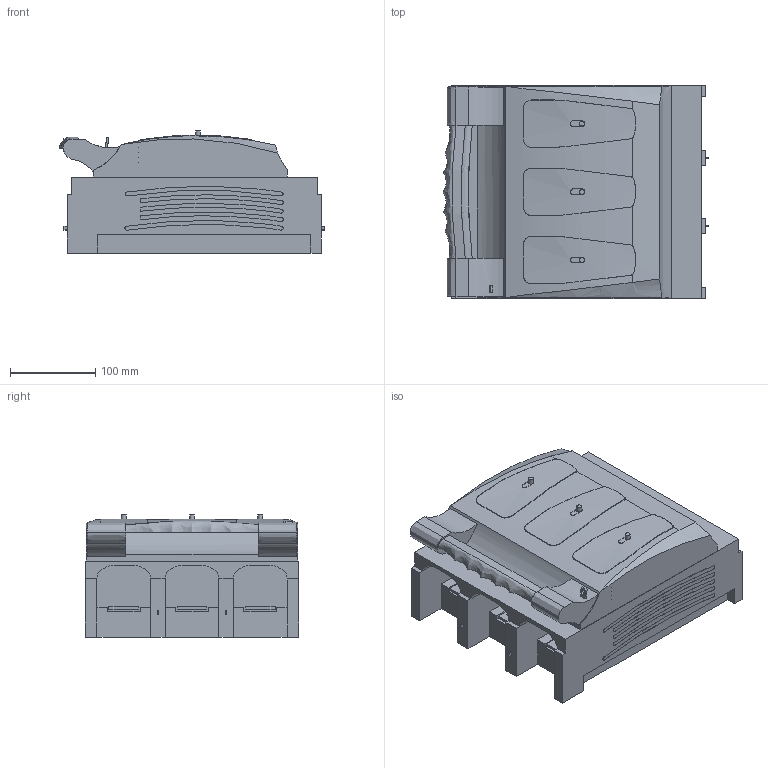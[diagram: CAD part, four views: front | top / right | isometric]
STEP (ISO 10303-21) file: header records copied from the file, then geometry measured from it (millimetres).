
FILE_DESCRIPTION(/* description */ (''),/* implementation_level */ '2;1');
FILE_NAME(/* name */ '335195_SECC 3P BS NH3 TORNILLO.stp',/* time_stamp */ '2021-11-05T14:34:56+01:00',/* author */ (''),/* organization */ (''),/* preprocessor_version */ 'ST-DEVELOPER v18.1',/* originating_system */ 'SIEMENS PLM Software NX 1992',/* authorisation */ '');
FILE_SCHEMA (('AUTOMOTIVE_DESIGN { 1 0 10303 214 3 1 1 1 }'));
Length unit declared in the file: millimetre
Products named in the file (1): 335195_SECC 3P BS NH3 TORNILLO
Bounding box: 311.67 x 250 x 143.6 mm (x, y, z)
Volume: 7322383.7 mm3; surface area: 385823.5 mm2
Topology: 1 solids, 6 shells, 497 faces, 1366 edges, 915 vertices
Faces by surface type: plane 260, cylinder 182, cone 36, bspline 10, extrusion 5, sphere 4
Full cylindrical faces by diameter (mm): 11.105 x4, 13 x6
Entity records: 19507 total; most frequent: CARTESIAN_POINT 7274, ORIENTED_EDGE 2704, DIRECTION 2263, EDGE_CURVE 1352, VERTEX_POINT 917, VECTOR 771, LINE 766, AXIS2_PLACEMENT_3D 746
